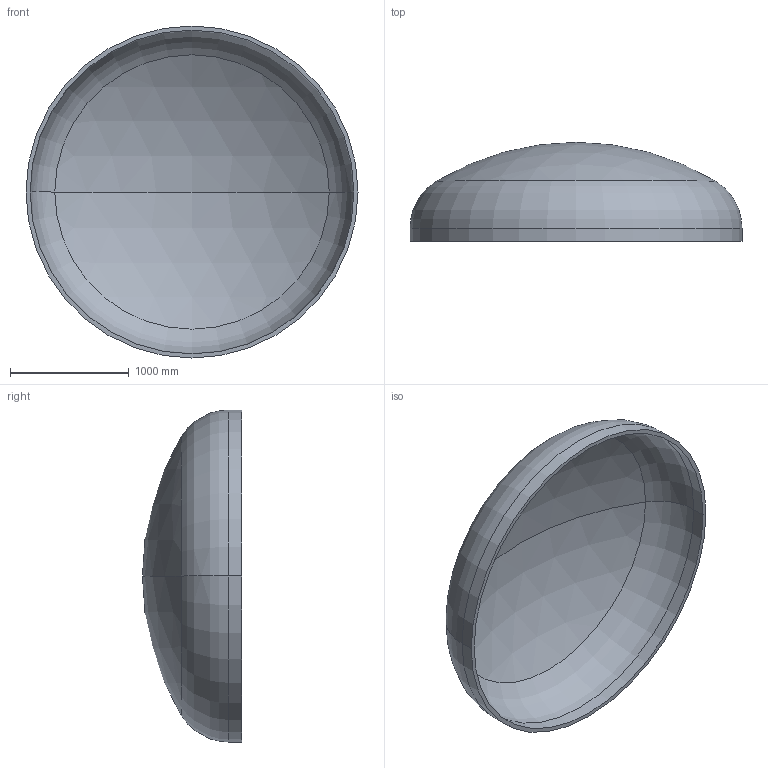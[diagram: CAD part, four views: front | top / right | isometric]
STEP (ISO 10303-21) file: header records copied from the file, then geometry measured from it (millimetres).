
FILE_DESCRIPTION (( 'STEP AP203' ), '1' );
FILE_NAME ('DIN 28013 Korbbogenform_-_Boden DIN 28013 - 2800 x 110 - I - s=35.step', '2016-07-01T16:55:12', ( '' ), ( '' ), 'SwSTEP 2.0', 'SolidWorks 2013', '' );
FILE_SCHEMA (( 'CONFIG_CONTROL_DESIGN' ));
Length unit declared in the file: millimetre
Products named in the file (1): DIN 28013 Korbbogenform_-_Boden DIN 28013 - 2800 x 110 - I - s=35
Bounding box: 2800 x 835.2 x 2800 mm (x, y, z)
Volume: 326873240.1 mm3; surface area: 18985057.5 mm2
Topology: 1 solids, 1 shells, 13 faces, 24 edges, 14 vertices
Faces by surface type: torus 4, cylinder 4, sphere 4, plane 1
Entity records: 407 total; most frequent: DIRECTION 72, CARTESIAN_POINT 52, ORIENTED_EDGE 48, AXIS2_PLACEMENT_3D 34, EDGE_CURVE 24, CIRCLE 20, VERTEX_POINT 14, EDGE_LOOP 14
